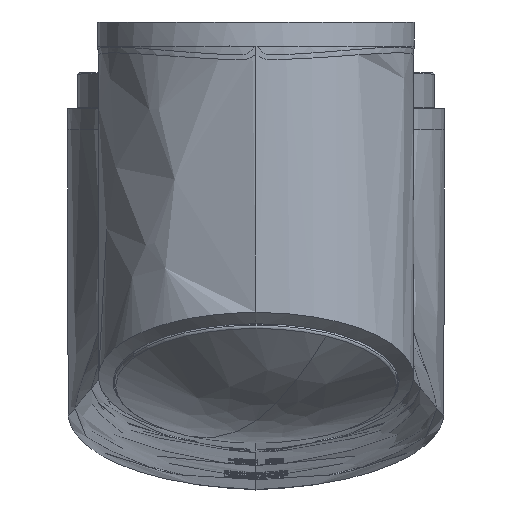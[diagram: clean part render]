
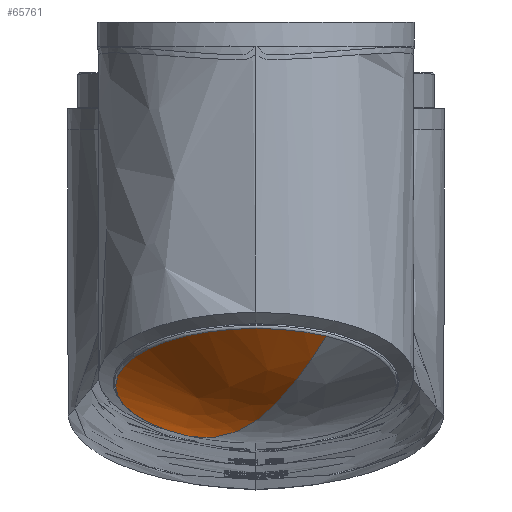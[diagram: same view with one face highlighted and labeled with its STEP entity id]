
A CAD part, top view. The second image highlights one B-rep face of the part: STEP entity #65761.
In plain terms, the highlighted free-form (B-spline) face has degree [2, 3] with [3, 4] control points.
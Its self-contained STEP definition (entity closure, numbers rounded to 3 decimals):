
#2250 = ORIENTED_EDGE ( 'NONE', *, *, #51779, .T. ) ;
#2493 = EDGE_CURVE ( 'NONE', #24340, #34916, #73505, .T. ) ;
#3975 = CARTESIAN_POINT ( 'NONE',  ( 180.006, -248.499, 1036.238 ) ) ;
#4616 = CARTESIAN_POINT ( 'NONE',  ( 180.006, -248.499, 1036.238 ) ) ;
#4959 =( BOUNDED_SURFACE ( )  B_SPLINE_SURFACE ( 2, 3, ( 
 ( #32310, #26646, #3975, #55343 ),
 ( #64920, #49664, #59251, #18480 ),
 ( #72739, #47158, #20969, #31569 ) ),
 .UNSPECIFIED., .F., .F., .F. ) 
 B_SPLINE_SURFACE_WITH_KNOTS ( ( 3, 3 ),
 ( 4, 4 ),
 ( 0., 0.956 ),
 ( 0., 1. ),
 .UNSPECIFIED. ) 
 GEOMETRIC_REPRESENTATION_ITEM ( )  RATIONAL_B_SPLINE_SURFACE ( (
 ( 1., 0.333, 0.333, 1.),
 ( 1., 0.333, 0.333, 1.),
 ( 1., 0.333, 0.333, 1.) ) ) 
 REPRESENTATION_ITEM ( '' )  SURFACE ( )  );
#9264 = FACE_OUTER_BOUND ( 'NONE', #55598, .T. ) ;
#11108 = CARTESIAN_POINT ( 'NONE',  ( 180.006, -231.795, 1028.801 ) ) ;
#14683 = ORIENTED_EDGE ( 'NONE', *, *, #40322, .T. ) ;
#16276 = CARTESIAN_POINT ( 'NONE',  ( 213.345, -208.308, 1081.553 ) ) ;
#17385 = AXIS2_PLACEMENT_3D ( 'NONE', #73196, #61477, #27832 ) ;
#18480 = CARTESIAN_POINT ( 'NONE',  ( 195.305, -237.721, 1060.444 ) ) ;
#19373 = CARTESIAN_POINT ( 'NONE',  ( 180.006, -248.499, 1036.238 ) ) ;
#19804 = CIRCLE ( 'NONE', #17385, 66.678 ) ;
#20969 = CARTESIAN_POINT ( 'NONE',  ( 97.856, -181.188, 1142.467 ) ) ;
#22166 = AXIS2_PLACEMENT_3D ( 'NONE', #11108, #62862, #51901 ) ;
#24340 = VERTEX_POINT ( 'NONE', #19373 ) ;
#26630 = CARTESIAN_POINT ( 'NONE',  ( 146.667, -255.283, 976.048 ) ) ;
#26646 = CARTESIAN_POINT ( 'NONE',  ( 180.006, -248.499, 1036.238 ) ) ;
#27832 = DIRECTION ( 'NONE',  ( -0.866, 0.203, 0.457 ) ) ;
#31569 = CARTESIAN_POINT ( 'NONE',  ( 213.345, -208.308, 1081.553 ) ) ;
#32310 = CARTESIAN_POINT ( 'NONE',  ( 180.006, -248.499, 1036.238 ) ) ;
#34916 = VERTEX_POINT ( 'NONE', #37823 ) ;
#37446 = ORIENTED_EDGE ( 'NONE', *, *, #69228, .T. ) ;
#37823 = CARTESIAN_POINT ( 'NONE',  ( 146.667, -255.283, 976.048 ) ) ;
#40322 = EDGE_CURVE ( 'NONE', #24340, #56818, #66080, .T. ) ;
#40581 = CARTESIAN_POINT ( 'NONE',  ( 122.262, -218.235, 1059.257 ) ) ;
#45380 = CARTESIAN_POINT ( 'NONE',  ( 195.305, -237.721, 1060.444 ) ) ;
#47158 = CARTESIAN_POINT ( 'NONE',  ( 31.178, -228.162, 1036.962 ) ) ;
#49664 = CARTESIAN_POINT ( 'NONE',  ( 111.714, -246.831, 1039.982 ) ) ;
#51779 = EDGE_CURVE ( 'NONE', #56818, #59921, #59598, .T. ) ;
#51901 = DIRECTION ( 'NONE',  ( -0.866, 0.203, 0.457 ) ) ;
#55343 = CARTESIAN_POINT ( 'NONE',  ( 180.006, -248.499, 1036.238 ) ) ;
#55598 = EDGE_LOOP ( 'NONE', ( #63945, #14683, #2250, #37446 ) ) ;
#56818 = VERTEX_POINT ( 'NONE', #16276 ) ;
#59251 = CARTESIAN_POINT ( 'NONE',  ( 142.31, -225.276, 1088.395 ) ) ;
#59598 = CIRCLE ( 'NONE', #22166, 66.678 ) ;
#59921 = VERTEX_POINT ( 'NONE', #40581 ) ;
#61371 = CARTESIAN_POINT ( 'NONE',  ( 180.006, -248.499, 1036.238 ) ) ;
#61477 = DIRECTION ( 'NONE',  ( 0., -0.914, 0.407 ) ) ;
#62862 = DIRECTION ( 'NONE',  ( 0., -0.914, 0.407 ) ) ;
#63945 = ORIENTED_EDGE ( 'NONE', *, *, #2493, .F. ) ;
#64920 = CARTESIAN_POINT ( 'NONE',  ( 164.708, -259.276, 1012.031 ) ) ;
#65761 = ADVANCED_FACE ( 'NONE', ( #9264 ), #4959, .F. ) ;
#66080 = B_SPLINE_CURVE_WITH_KNOTS ( 'NONE', 2,
 ( #4616, #45380, #73368 ),
 .UNSPECIFIED., .F., .F.,
 ( 3, 3 ),
 ( 0., 0.956 ),
 .UNSPECIFIED. ) ;
#68520 = CARTESIAN_POINT ( 'NONE',  ( 164.708, -259.276, 1012.031 ) ) ;
#69228 = EDGE_CURVE ( 'NONE', #59921, #34916, #19804, .T. ) ;
#72739 = CARTESIAN_POINT ( 'NONE',  ( 146.667, -255.283, 976.048 ) ) ;
#73196 = CARTESIAN_POINT ( 'NONE',  ( 180.006, -231.795, 1028.801 ) ) ;
#73368 = CARTESIAN_POINT ( 'NONE',  ( 213.345, -208.308, 1081.553 ) ) ;
#73505 = B_SPLINE_CURVE_WITH_KNOTS ( 'NONE', 2,
 ( #61371, #68520, #26630 ),
 .UNSPECIFIED., .F., .F.,
 ( 3, 3 ),
 ( 0., 0.956 ),
 .UNSPECIFIED. ) ;
